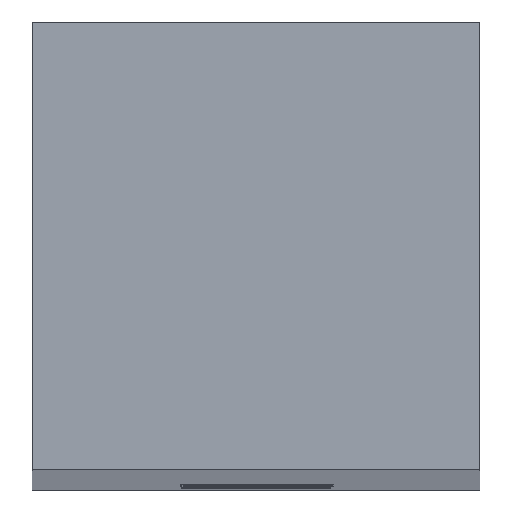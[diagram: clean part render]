
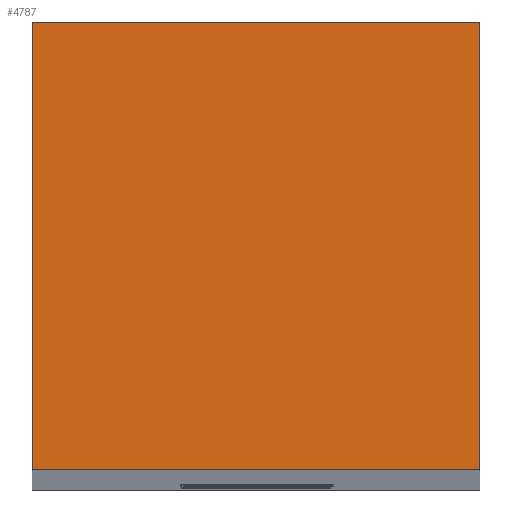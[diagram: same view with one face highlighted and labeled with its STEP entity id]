
A CAD part, top view. The second image highlights one B-rep face of the part: STEP entity #4787.
In plain terms, the highlighted planar face has unit normal (0, 0, 1).
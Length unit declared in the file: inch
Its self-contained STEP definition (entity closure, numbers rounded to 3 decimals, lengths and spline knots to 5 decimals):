
#6 = LINE ( 'NONE', #1742, #6357 ) ;
#44 = DIRECTION ( 'NONE',  ( 1., 0., 0. ) ) ;
#134 = VERTEX_POINT ( 'NONE', #7867 ) ;
#166 = CARTESIAN_POINT ( 'NONE',  ( 6.28986, -7.10482, 11.41732 ) ) ;
#194 = LINE ( 'NONE', #6175, #835 ) ;
#835 = VECTOR ( 'NONE', #6858, 39.37008 ) ;
#945 = VERTEX_POINT ( 'NONE', #1363 ) ;
#1004 = CARTESIAN_POINT ( 'NONE',  ( 5.98425, -7.82283, 11.41732 ) ) ;
#1363 = CARTESIAN_POINT ( 'NONE',  ( 6.28986, -6.72982, 11.41732 ) ) ;
#1628 = EDGE_CURVE ( 'NONE', #945, #7832, #6785, .T. ) ;
#1742 = CARTESIAN_POINT ( 'NONE',  ( 5.98425, -6.72982, 11.41732 ) ) ;
#1766 = DIRECTION ( 'NONE',  ( 0., 0., -1. ) ) ;
#1786 = DIRECTION ( 'NONE',  ( -1., 0., 0. ) ) ;
#2258 = AXIS2_PLACEMENT_3D ( 'NONE', #1004, #1766, #3467 ) ;
#2891 = ORIENTED_EDGE ( 'NONE', *, *, #3258, .F. ) ;
#3258 = EDGE_CURVE ( 'NONE', #134, #3265, #194, .T. ) ;
#3265 = VERTEX_POINT ( 'NONE', #4379 ) ;
#3467 = DIRECTION ( 'NONE',  ( -1., 0., 0. ) ) ;
#3515 = EDGE_CURVE ( 'NONE', #7832, #134, #7310, .T. ) ;
#4063 = PLANE ( 'NONE',  #2258 ) ;
#4234 = EDGE_CURVE ( 'NONE', #3265, #945, #6, .T. ) ;
#4379 = CARTESIAN_POINT ( 'NONE',  ( 5.91486, -6.72982, 11.41732 ) ) ;
#4547 = CARTESIAN_POINT ( 'NONE',  ( 6.28986, -6.79232, 11.41732 ) ) ;
#4787 = ADVANCED_FACE ( 'NONE', ( #4850 ), #4063, .F. ) ;
#4801 = VECTOR ( 'NONE', #1786, 39.37008 ) ;
#4850 = FACE_OUTER_BOUND ( 'NONE', #6758, .T. ) ;
#4912 = CARTESIAN_POINT ( 'NONE',  ( 6.22736, -7.10482, 11.41732 ) ) ;
#5137 = ORIENTED_EDGE ( 'NONE', *, *, #4234, .F. ) ;
#5324 = ORIENTED_EDGE ( 'NONE', *, *, #1628, .F. ) ;
#5571 = ORIENTED_EDGE ( 'NONE', *, *, #3515, .F. ) ;
#6175 = CARTESIAN_POINT ( 'NONE',  ( 5.91486, -7.82283, 11.41732 ) ) ;
#6357 = VECTOR ( 'NONE', #44, 39.37008 ) ;
#6758 = EDGE_LOOP ( 'NONE', ( #2891, #5571, #5324, #5137 ) ) ;
#6785 = LINE ( 'NONE', #4547, #7890 ) ;
#6858 = DIRECTION ( 'NONE',  ( 0., 1., 0. ) ) ;
#7310 = LINE ( 'NONE', #4912, #4801 ) ;
#7741 = DIRECTION ( 'NONE',  ( 0., -1., 0. ) ) ;
#7832 = VERTEX_POINT ( 'NONE', #166 ) ;
#7867 = CARTESIAN_POINT ( 'NONE',  ( 5.91486, -7.10482, 11.41732 ) ) ;
#7890 = VECTOR ( 'NONE', #7741, 39.37008 ) ;
